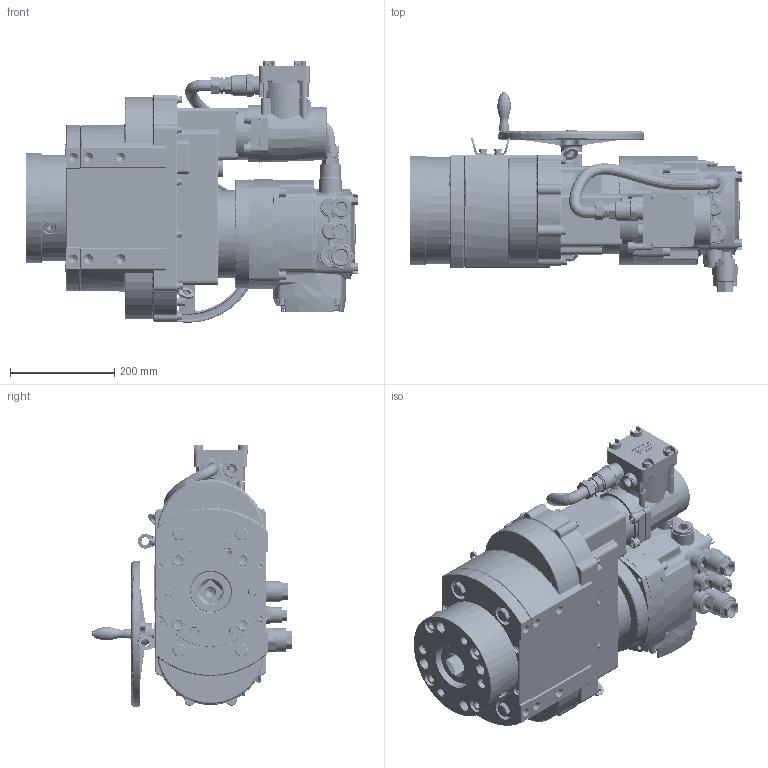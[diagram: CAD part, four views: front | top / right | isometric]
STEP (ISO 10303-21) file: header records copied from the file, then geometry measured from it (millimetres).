
FILE_DESCRIPTION(('THIS FILE CONTAINS SOME STEP INSTANCES'),'1');
FILE_NAME('421321_120ÑÁ Ìåõàíèçì ÌÝÎÔ-2500 4000Å2-IIÂÒ4-09Ê (ñ ÊÈÌ-2).stp','2015-11-12T15:51:01',('UNDEFINED'),('UNDEFINED'),'T-FLEX CAD STEP converter','T-FLEX CAD','');
FILE_SCHEMA(('CONFIG_CONTROL_DESIGN'));
Length unit declared in the file: metre
Products named in the file (1303): 砱鋋_1
Assembly tree (1302 placements, depth 2):
  (unnamed)
    砱鋋_1
    砱鋋_1
    砱鋋_1
    砱鋋_1
    砱鋋_1
    砱鋋_1
    砱鋋_1
    砱鋋_1
    砱鋋_1
    砱鋋_1
    砱鋋_1
    砱鋋_1
    砱鋋_1
    砱鋋_1
    砱鋋_1
    砱鋋_1
    砱鋋_1
    砱鋋_1
    砱鋋_1
    砱鋋_1
    砱鋋_1
    砱鋋_1
    砱鋋_1
    砱鋋_1
    砱鋋_1
    砱鋋_1
    砱鋋_1
    砱鋋_1
    砱鋋_1
    砱鋋_1
    砱鋋_1
    砱鋋_1
    砱鋋_1
    砱鋋_1
    砱鋋_1
    砱鋋_1
    砱鋋_1
    砱鋋_1
    砱鋋_1
    砱鋋_1
    砱鋋_1
    砱鋋_1
    砱鋋_1
    砱鋋_1
    砱鋋_1
    砱鋋_1
    砱鋋_1
    砱鋋_1
    砱鋋_1
    砱鋋_1
    砱鋋_1
    砱鋋_1
    砱鋋_1
    砱鋋_1
    砱鋋_1
    砱鋋_1
    砱鋋_1
    砱鋋_1
    砱鋋_1
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Bounding box: 637 x 384.77 x 501.69 mm (x, y, z)
Volume: 20984018.7 mm3; surface area: 5092895.2 mm2
Topology: 1302 solids, 1302 shells, 22986 faces, 53055 edges, 33519 vertices
Faces by surface type: plane 10881, cylinder 5574, bspline 2839, cone 2026, torus 1331, sphere 335
Full cylindrical faces by diameter (mm): 0.41 x4, 0.494 x2, 0.5 x6, 0.501 x2, 0.502 x4, 0.75 x91, 0.992 x6, 1.002 x2, 1.006 x2, 1.5 x13, 1.567 x4, 1.6 x1, 1.7 x14, 1.8 x6, 1.9 x4, 2 x19, 2.1 x2, 2.25 x91, 2.3 x1, 2.459 x42, 2.5 x16, 2.7 x1, 2.8 x4, 3 x107, 3.2 x66, 3.242 x18, 3.3 x2, 3.4 x46, 3.5 x4, 3.8 x4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
Entity records: 931726 total; most frequent: CARTESIAN_POINT 438251, ORIENTED_EDGE 100322, DIRECTION 81933, EDGE_CURVE 50161, VERTEX_POINT 33124, AXIS2_PLACEMENT_3D 28504, EDGE_LOOP 28093, LINE 24925
